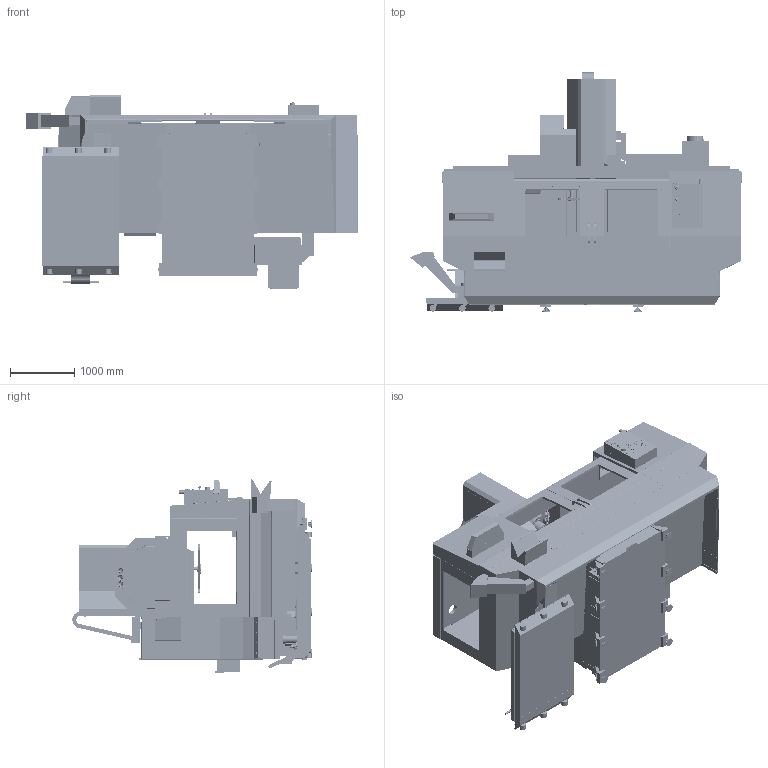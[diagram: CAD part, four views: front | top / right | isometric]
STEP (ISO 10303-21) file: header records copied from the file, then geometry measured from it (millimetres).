
FILE_DESCRIPTION (( 'STEP AP214' ), '1' );
FILE_NAME ('VF-7_50_STEP__2_2022.step', '2022-02-05T00:41:45', ( '' ), ( '' ), 'SwSTEP 2.0', 'SolidWorks 2021', '' );
FILE_SCHEMA (( 'AUTOMOTIVE_DESIGN' ));
Length unit declared in the file: inch
Products named in the file (57): 8in EXTENDED Z-AXIS CLEARANCE_VF-7_50_2_2022; CABCOOL_VF-7_50_2_2022; AUTOMATIC-AIR-GUN; PENDANT STORAGE; Group3^PULSEJET SYSTEM; PENDANT AND STORAGE_VF-7_50_2_2022; SPINDLE HEAD_VF-7_50_2_2022; ENCLOSURE EXHAUST SYSTEM; HAAS-P-COOL; 10000020245_VF-7_02_2022; CONV-PACKAGE_VF-7_50_2_2022; TABLE MAX X-Y_VF-7_50_2_2022; CABCOOL; ECABIN; TOP_VF-Y_ENCLOSURE; P-COOL_VF-7_50_2_2022; 10000010592-vf-7_50T_defeature; PENDANT AND STORAGE; CHIP CHUTE_VF-7_50_2_2022; 37-2247 VF-7 -40T_defeature^10000010943_COMMON; PULSEJET SYSTEM; 95-GAL COOLANT TANK_VF-7_50_2_2022; 10000008953_VF-7_02_2022_defeature; PULSEJET SYSTEM _VF-7_50_2_2022; AUTOMATIC AIR GUN_VF-7_50_2_2022; 30-SMTC-VF-7-50T; 30-SMTC_VF-7_50_2_2022; 50T Spindle_37-4212; 95-Gal Coolant Tank; 32-6042 FRONT PANEL ASSY MILL SST FREE HANG_defeature^10000057196_Pendant_Common; 10000118647; BOTTOM_VF-Y_ENCLOSURE; 10000057196_Pendant_Common_32-6042 FRONT PANEL ASSY MILL SST FREE HANG_defeature; PROGRAMMABLE AIR; SADDLE_VF-7_50_2_2022; 30-SMTC ARM  LOW _VF-7_50_2_2022; COLUMN_VF-7_50_2_2022; ENCLOSURE-TOP_VF-7_50_2_2022; 10000008935_VF-7_02_2022_defeature; 30-SMTC ARM  HIGH _VF-7_50_2_2022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
Assembly tree (66 placements, depth 5):
  VF-7_50_STEP__2_2022
    BASE_VF-7_50_2_2022
      10000008935_VF-7_02_2022_defeature
    COLUMN_VF-7_50_2_2022
      10000008953_VF-7_02_2022_defeature
    SPINDLE HEAD_VF-7_50_2_2022
      10000010592-vf-7_50T_defeature
      50T Spindle_37-4212
    SADDLE_VF-7_50_2_2022
      10000009025_VF-7_02_2022_defeature
    TABLE _VF-7_50_2_2022
      10000010572_defeature
    TABLE MAX-X _VF-7_50_2_2022
      10000010572_defeature
    TABLE MAX X-Y_VF-7_50_2_2022
      10000010572_defeature
    ENCLOSURE-TOP_VF-7_50_2_2022
      TOP_VF-Y_ENCLOSURE
      10000020245_VF-7_02_2022
      10000118647
      ECABIN
      BACK PANEL-SMTC
    8in EXTENDED Z-AXIS CLEARANCE_VF-7_50_2_2022
      10000010943_COMMON_37-2247 VF-7 -40T_defeature
        37-2247 VF-7 -40T_defeature^10000010943_COMMON
    ENCLOSURE-BOTTOM_VF-7_50_2_2022
      BOTTOM_VF-Y_ENCLOSURE
    PADS_VF-7_50_2_2022
      Pads_DF  x8
    PENDANT AND STORAGE_VF-7_50_2_2022
      PENDANT AND STORAGE
        PENDANT STORAGE
        10000057196_Pendant_Common_32-6042 FRONT PANEL ASSY MILL SST FREE HANG_defeature
          32-6042 FRONT PANEL ASSY MILL SST FREE HANG_defeature^10000057196_Pendant_Common
    95-GAL COOLANT TANK_VF-7_50_2_2022
      95-Gal Coolant Tank
    CABCOOL_VF-7_50_2_2022
      CABCOOL
    PROGRAMMABLE AIR _VF-7_50_2_2022
      PROGRAMMABLE AIR
    AUTOMATIC AIR GUN_VF-7_50_2_2022
      AUTOMATIC-AIR-GUN
    P-COOL_VF-7_50_2_2022
      HAAS-P-COOL
    ENCLOSURE EXHAUST SYSTEM_VF-7_50_2_2022
      ENCLOSURE EXHAUST SYSTEM
    PULSEJET SYSTEM _VF-7_50_2_2022
      PULSEJET SYSTEM
        Group3^PULSEJET SYSTEM
        Group4^PULSEJET SYSTEM
    30-SMTC_VF-7_50_2_2022
      30-SMTC-VF-7-50T
    30-SMTC ARM  HIGH _VF-7_50_2_2022
      30T-ARM-VF-7
    CHIP CHUTE_VF-7_50_2_2022
      10000095056_defeature
    CONV-PACKAGE_VF-7_50_2_2022
      CONV-PKG-VF-7
    30-SMTC ARM  LOW _VF-7_50_2_2022
      30T-ARM-VF-7
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Bounding box: 5169.32 x 3726.22 x 3010.85 mm (x, y, z)
Volume: 5568353837.7 mm3; surface area: 197817524.2 mm2
Topology: 46 solids, 146 shells, 21534 faces, 57383 edges, 36526 vertices
Faces by surface type: plane 12149, cylinder 5719, cone 1709, bspline 1688, torus 204, sphere 65
Entity records: 867933 total; most frequent: CARTESIAN_POINT 172976, ORIENTED_EDGE 101706, DIRECTION 90487, EDGE_CURVE 50853, LINE 33201, VECTOR 33201, VERTEX_POINT 32751, AXIS2_PLACEMENT_3D 28643
